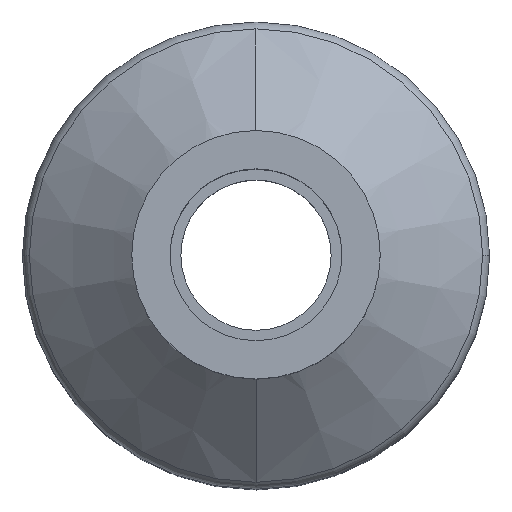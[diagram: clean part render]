
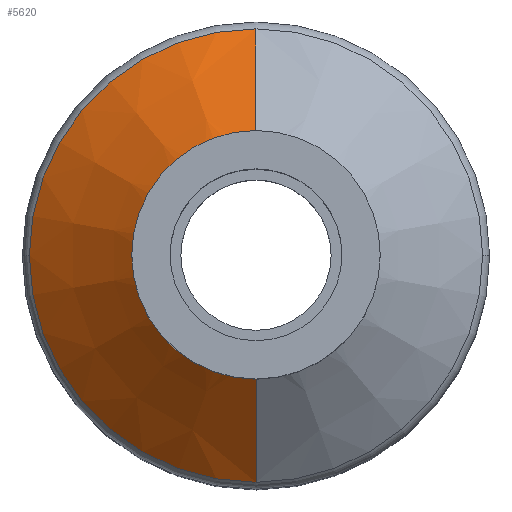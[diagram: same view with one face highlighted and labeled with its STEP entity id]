
A CAD part, top view. The second image highlights one B-rep face of the part: STEP entity #5620.
In plain terms, the highlighted conical face has half-angle 50 degrees and reference radius 19 mm.
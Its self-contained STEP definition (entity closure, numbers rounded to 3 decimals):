
#60=CARTESIAN_POINT('',(78.943,46.757,0.)
);
#70=DIRECTION('',(1.,0.,0.));
#80=DIRECTION('',(0.,-1.,
0.));
#90=AXIS2_PLACEMENT_3D('',#60,#70,#80);
#100=CIRCLE('',#90,13.393);
#110=CARTESIAN_POINT('',(78.943,46.757,
13.393));
#120=VERTEX_POINT('',#110);
#440=CARTESIAN_POINT('',(78.943,60.15,
0.));
#450=VERTEX_POINT('',#440);
#480=EDGE_CURVE('',#450,#120,#100,.T.);
#4670=CARTESIAN_POINT('',(92.276,46.757,
0.));
#4680=DIRECTION('',(1.,0.,0.));
#4690=DIRECTION('',(0.,-1.,
0.));
#4700=AXIS2_PLACEMENT_3D('',#4670,#4680,#4690);
#4710=CIRCLE('',#4700,29.282);
#4720=CARTESIAN_POINT('',(92.276,46.757,
29.282));
#4730=VERTEX_POINT('',#4720);
#4760=CARTESIAN_POINT('',(92.276,76.039,
0.));
#4770=VERTEX_POINT('',#4760);
#4780=EDGE_CURVE('',#4770,#4730,#4710,.T.);
#5330=CARTESIAN_POINT('',(83.648,46.757,
0.));
#5340=DIRECTION('',(1.,0.,0.));
#5350=DIRECTION('',(0.,0.,
1.));
#5360=AXIS2_PLACEMENT_3D('',#5330,#5340,#5350);
#5370=CONICAL_SURFACE('',#5360,19.,0.873);
#5380=CARTESIAN_POINT('',(78.943,46.757,
-13.393));
#5390=VERTEX_POINT('',#5380);
#5400=EDGE_CURVE('',#5390,#450,#100,.T.);
#5410=ORIENTED_EDGE('',*,*,#5400,.T.);
#5420=CARTESIAN_POINT('',(83.648,46.756,
-19.));
#5430=DIRECTION('',(0.643,0.,
-0.766));
#5440=VECTOR('',#5430,24.803);
#5450=LINE('',#5420,#5440);
#5460=CARTESIAN_POINT('',(92.276,46.756,
-29.282));
#5470=VERTEX_POINT('',#5460);
#5480=EDGE_CURVE('',#5390,#5470,#5450,.T.);
#5490=ORIENTED_EDGE('',*,*,#5480,.F.);
#5500=EDGE_CURVE('',#5470,#4770,#4710,.T.);
#5510=ORIENTED_EDGE('',*,*,#5500,.F.);
#5520=ORIENTED_EDGE('',*,*,#4780,.F.);
#5530=CARTESIAN_POINT('',(83.648,46.757,
19.));
#5540=DIRECTION('',(0.643,0.,
0.766));
#5550=VECTOR('',#5540,24.803);
#5560=LINE('',#5530,#5550);
#5570=EDGE_CURVE('',#120,#4730,#5560,.T.);
#5580=ORIENTED_EDGE('',*,*,#5570,.T.);
#5590=ORIENTED_EDGE('',*,*,#480,.T.);
#5600=EDGE_LOOP('',(#5590,#5580,#5520,#5510,#5490,#5410));
#5610=FACE_OUTER_BOUND('',#5600,.T.);
#5620=ADVANCED_FACE('',(#5610),#5370,.T.);
